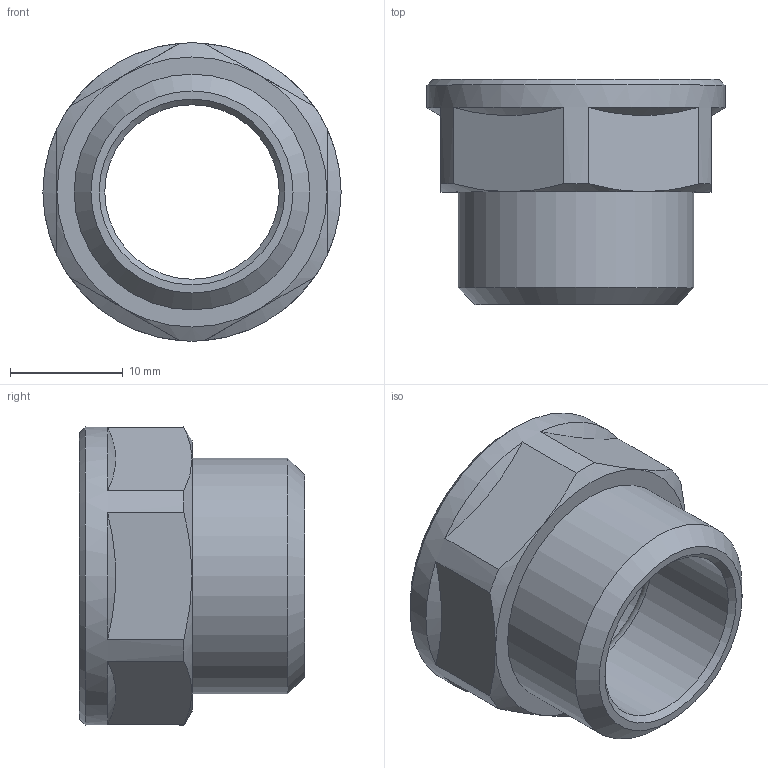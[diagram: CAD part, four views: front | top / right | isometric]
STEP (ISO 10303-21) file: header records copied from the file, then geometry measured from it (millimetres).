
FILE_DESCRIPTION(('STEP AP203'), '1');
FILE_NAME('ÂÐ.753128.014 - VTr.197.N.0410 Ôèò. ðåçüá. óäë', '2024-06-27T05:50:10', ('Boss'), (''), 'C3D Converter', 'C3D Toolkit', '');
FILE_SCHEMA(('CONFIG_CONTROL_DESIGN'));
Length unit declared in the file: millimetre
Products named in the file (1): ВР.753128.014
Bounding box: 26.5 x 20 x 26.5 mm (x, y, z)
Volume: 3846.7 mm3; surface area: 3050.9 mm2
Topology: 1 solids, 1 shells, 31 faces, 70 edges, 43 vertices
Faces by surface type: cone 16, plane 10, cylinder 4, torus 1
Full cylindrical faces by diameter (mm): 15.5 x1, 18.632 x1, 20.955 x1, 26.5 x1
Entity records: 1330 total; most frequent: CARTESIAN_POINT 643, DIRECTION 138, ORIENTED_EDGE 122, AXIS2_PLACEMENT_3D 63, EDGE_CURVE 61, VERTEX_POINT 45, EDGE_LOOP 44, ADVANCED_FACE 31
